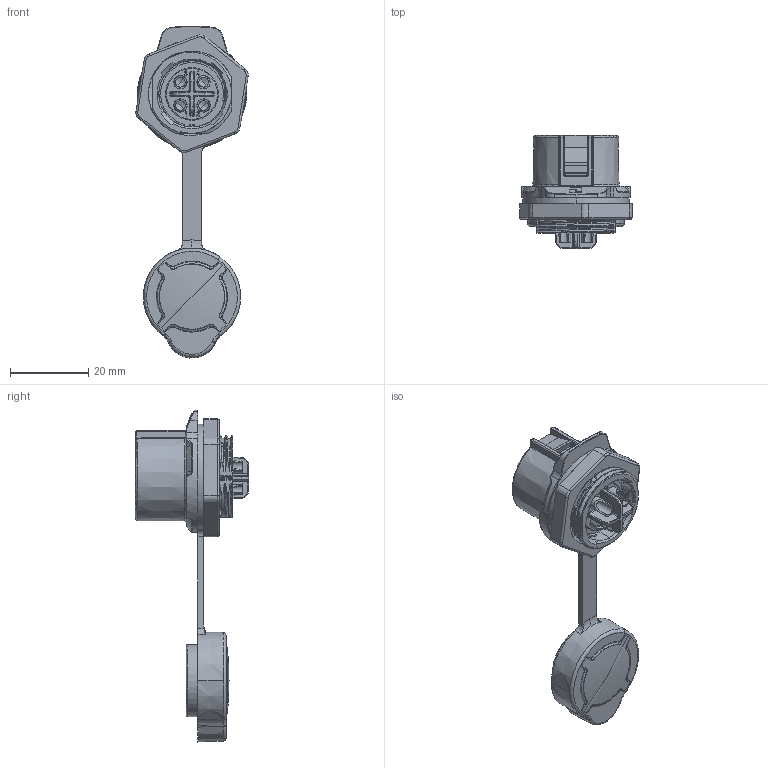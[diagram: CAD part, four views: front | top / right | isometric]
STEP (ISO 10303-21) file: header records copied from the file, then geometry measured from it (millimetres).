
FILE_DESCRIPTION (( 'STEP AP203' ), '1' );
FILE_NAME ('LP-20-J04SX-02-171.STEP', '2023-11-27T09:36:53', ( 'Windows 蚚誧' ), ( 'Organization' ), 'SwSTEP 2.0', 'SolidWorks 2017', '' );
FILE_SCHEMA (( 'CONFIG_CONTROL_DESIGN' ));
Length unit declared in the file: millimetre
Products named in the file (1): LP-20-J04SX-02-171
Bounding box: 28.79 x 29 x 85.11 mm (x, y, z)
Volume: 10877.1 mm3; surface area: 12489.7 mm2
Topology: 1 solids, 3 shells, 1325 faces, 3475 edges, 2151 vertices
Faces by surface type: plane 413, bspline 328, cylinder 295, cone 154, torus 131, sphere 4
Entity records: 65237 total; most frequent: CARTESIAN_POINT 35462, ORIENTED_EDGE 6888, DIRECTION 5354, EDGE_CURVE 3444, VERTEX_POINT 2152, AXIS2_PLACEMENT_3D 2052, EDGE_LOOP 1388, FACE_OUTER_BOUND 1326
